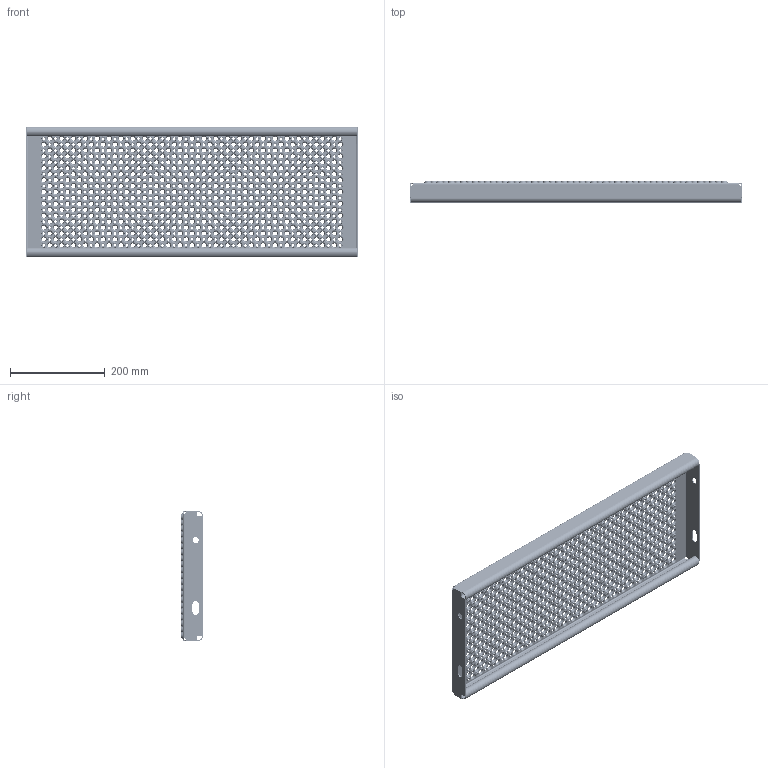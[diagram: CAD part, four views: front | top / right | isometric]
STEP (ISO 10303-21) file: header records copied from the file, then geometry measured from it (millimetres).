
FILE_DESCRIPTION (( 'STEP AP214' ), '1' );
FILE_NAME ('Achil_trin_275x700x45x2_mm.STEP', '2021-03-17T11:53:30', ( '' ), ( '' ), 'SwSTEP 2.0', 'SolidWorks 2021', '' );
FILE_SCHEMA (( 'AUTOMOTIVE_DESIGN' ));
Products named in the file (1): Achil_trin_275x700x45x2_mm
Bounding box: 700 x 45 x 275 mm (x, y, z)
Volume: 644716 mm3; surface area: 702068.2 mm2
Topology: 1 solids, 1 shells, 10792 faces, 28046 edges, 17256 vertices
Faces by surface type: cone 6426, torus 4284, plane 38, cylinder 36, bspline 8
Entity records: 343492 total; most frequent: DIRECTION 71060, CARTESIAN_POINT 56687, ORIENTED_EDGE 56092, AXIS2_PLACEMENT_3D 32261, EDGE_CURVE 28046, CIRCLE 21476, VERTEX_POINT 17256, EDGE_LOOP 12942
